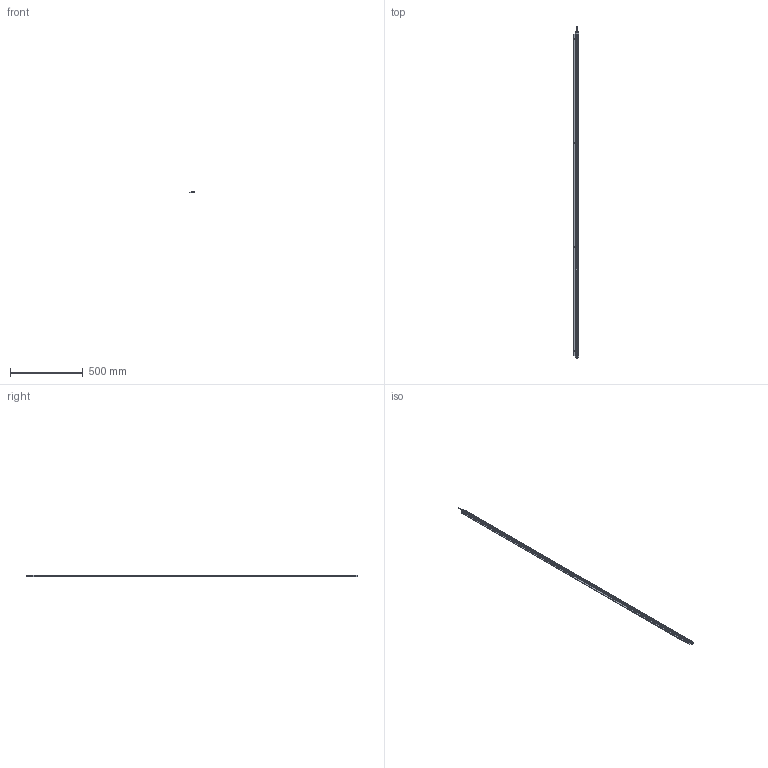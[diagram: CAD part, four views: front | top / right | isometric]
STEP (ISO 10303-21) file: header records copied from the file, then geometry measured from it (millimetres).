
FILE_DESCRIPTION (( 'STEP AP214' ), '1' );
FILE_NAME ('ILGA-L-K1-2240mm.STEP', '2026-04-24T23:07:58', ( '' ), ( '' ), 'SwSTEP 2.0', 'SolidWorks 2025', '' );
FILE_SCHEMA (( 'AUTOMOTIVE_DESIGN' ));
Length unit declared in the file: millimetre
Products named in the file (1): ILGA-L-K1-2240mm
Bounding box: 35 x 2280 x 10.7 mm (x, y, z)
Volume: 232180.7 mm3; surface area: 344725.3 mm2
Topology: 9 solids, 9 shells, 680 faces, 1768 edges, 1080 vertices
Faces by surface type: plane 293, cylinder 245, cone 60, torus 42, bspline 24, sphere 16
Entity records: 28575 total; most frequent: CARTESIAN_POINT 4429, DIRECTION 3606, ORIENTED_EDGE 3448, EDGE_CURVE 1724, AXIS2_PLACEMENT_3D 1345, VERTEX_POINT 1080, VECTOR 916, LINE 916
